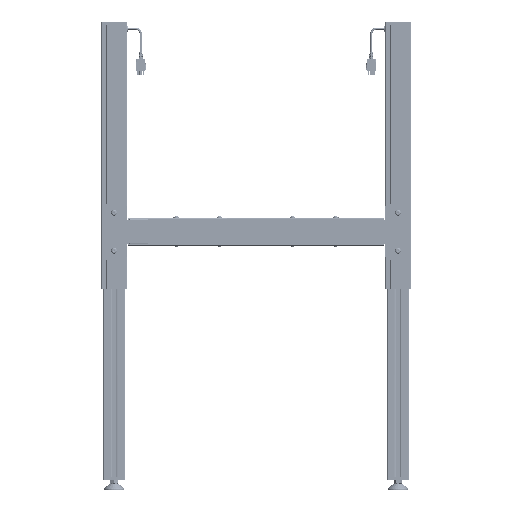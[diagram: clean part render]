
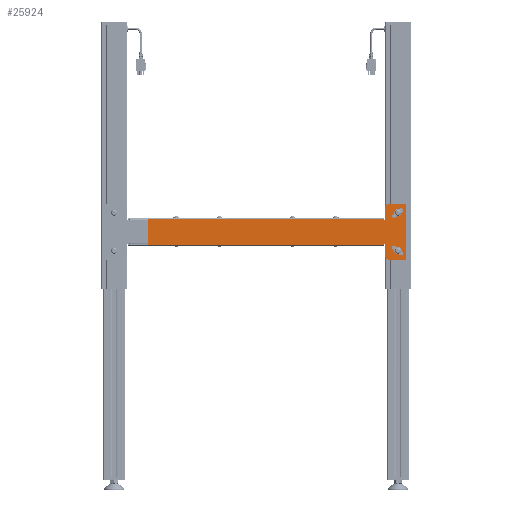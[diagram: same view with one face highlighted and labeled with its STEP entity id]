
A CAD part, front view. The second image highlights one B-rep face of the part: STEP entity #25924.
In plain terms, the highlighted planar face has unit normal (0, -1, 0) as drawn and (0, 0, -1) by its records, which use the part's own axes.
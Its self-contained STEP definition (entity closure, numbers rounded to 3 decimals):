
#1879=CIRCLE('',#33093,1.75);
#1880=CIRCLE('',#33095,1.75);
#1882=CIRCLE('',#33098,10.);
#1884=CIRCLE('',#33101,10.);
#1886=CIRCLE('',#33105,4.75);
#1888=CIRCLE('',#33109,4.75);
#1890=CIRCLE('',#33113,4.75);
#1892=CIRCLE('',#33117,4.75);
#7152=ORIENTED_EDGE('',*,*,#12334,.F.);
#7153=ORIENTED_EDGE('',*,*,#12324,.F.);
#7154=ORIENTED_EDGE('',*,*,#12328,.F.);
#7155=ORIENTED_EDGE('',*,*,#12331,.F.);
#7156=ORIENTED_EDGE('',*,*,#12322,.F.);
#7157=ORIENTED_EDGE('',*,*,#12312,.F.);
#7158=ORIENTED_EDGE('',*,*,#12316,.F.);
#7159=ORIENTED_EDGE('',*,*,#12319,.F.);
#7160=ORIENTED_EDGE('',*,*,#12300,.F.);
#7161=ORIENTED_EDGE('',*,*,#12343,.F.);
#7162=ORIENTED_EDGE('',*,*,#12308,.T.);
#7163=ORIENTED_EDGE('',*,*,#12340,.F.);
#7164=ORIENTED_EDGE('',*,*,#12338,.F.);
#7165=ORIENTED_EDGE('',*,*,#12347,.F.);
#7166=ORIENTED_EDGE('',*,*,#12304,.T.);
#7167=ORIENTED_EDGE('',*,*,#12344,.F.);
#7168=ORIENTED_EDGE('',*,*,#12301,.F.);
#7169=ORIENTED_EDGE('',*,*,#12254,.T.);
#7170=ORIENTED_EDGE('',*,*,#12349,.F.);
#7171=ORIENTED_EDGE('',*,*,#12296,.T.);
#12254=EDGE_CURVE('',#15254,#15253,#17624,.T.);
#12296=EDGE_CURVE('',#15283,#15284,#17645,.T.);
#12300=EDGE_CURVE('',#15286,#15284,#1879,.T.);
#12301=EDGE_CURVE('',#15254,#15287,#1880,.T.);
#12304=EDGE_CURVE('',#15289,#15290,#1882,.T.);
#12308=EDGE_CURVE('',#15293,#15294,#1884,.T.);
#12312=EDGE_CURVE('',#15297,#15298,#17652,.T.);
#12316=EDGE_CURVE('',#15301,#15297,#1886,.T.);
#12319=EDGE_CURVE('',#15303,#15301,#17657,.T.);
#12322=EDGE_CURVE('',#15298,#15303,#1888,.T.);
#12324=EDGE_CURVE('',#15305,#15306,#17660,.T.);
#12328=EDGE_CURVE('',#15309,#15305,#1890,.T.);
#12331=EDGE_CURVE('',#15311,#15309,#17665,.T.);
#12334=EDGE_CURVE('',#15306,#15311,#1892,.T.);
#12338=EDGE_CURVE('',#15315,#15316,#17670,.T.);
#12340=EDGE_CURVE('',#15316,#15294,#17672,.T.);
#12343=EDGE_CURVE('',#15293,#15286,#17675,.T.);
#12344=EDGE_CURVE('',#15287,#15290,#17676,.T.);
#12347=EDGE_CURVE('',#15289,#15315,#17679,.T.);
#12349=EDGE_CURVE('',#15283,#15253,#17681,.T.);
#15253=VERTEX_POINT('',#47992);
#15254=VERTEX_POINT('',#47994);
#15283=VERTEX_POINT('',#48123);
#15284=VERTEX_POINT('',#48129);
#15286=VERTEX_POINT('',#48167);
#15287=VERTEX_POINT('',#48171);
#15289=VERTEX_POINT('',#48177);
#15290=VERTEX_POINT('',#48178);
#15293=VERTEX_POINT('',#48186);
#15294=VERTEX_POINT('',#48187);
#15297=VERTEX_POINT('',#48195);
#15298=VERTEX_POINT('',#48196);
#15301=VERTEX_POINT('',#48204);
#15303=VERTEX_POINT('',#48210);
#15305=VERTEX_POINT('',#48219);
#15306=VERTEX_POINT('',#48220);
#15309=VERTEX_POINT('',#48228);
#15311=VERTEX_POINT('',#48234);
#15315=VERTEX_POINT('',#48246);
#15316=VERTEX_POINT('',#48248);
#17624=LINE('',#47993,#19803);
#17645=LINE('',#48130,#19824);
#17652=LINE('',#48194,#19831);
#17657=LINE('',#48209,#19836);
#17660=LINE('',#48218,#19839);
#17665=LINE('',#48233,#19844);
#17670=LINE('',#48247,#19849);
#17672=LINE('',#48251,#19851);
#17675=LINE('',#48255,#19854);
#17676=LINE('',#48257,#19855);
#17679=LINE('',#48261,#19858);
#17681=LINE('',#48264,#19860);
#19803=VECTOR('',#38491,1000.);
#19824=VECTOR('',#38574,1000.);
#19831=VECTOR('',#38607,1000.);
#19836=VECTOR('',#38620,1000.);
#19839=VECTOR('',#38631,1000.);
#19844=VECTOR('',#38644,1000.);
#19849=VECTOR('',#38657,1000.);
#19851=VECTOR('',#38661,1000.);
#19854=VECTOR('',#38666,1000.);
#19855=VECTOR('',#38669,1000.);
#19858=VECTOR('',#38674,1000.);
#19860=VECTOR('',#38678,1000.);
#21697=EDGE_LOOP('',(#7152,#7153,#7154,#7155));
#21698=EDGE_LOOP('',(#7156,#7157,#7158,#7159));
#21699=EDGE_LOOP('',(#7160,#7161,#7162,#7163,#7164,#7165,#7166,#7167,#7168,
#7169,#7170,#7171));
#23516=FACE_BOUND('',#21697,.T.);
#23517=FACE_BOUND('',#21698,.T.);
#23518=FACE_BOUND('',#21699,.T.);
#24791=PLANE('',#33126);
#25924=ADVANCED_FACE('',(#23516,#23517,#23518),#24791,.T.);
#33093=AXIS2_PLACEMENT_3D('',#48168,#38580,#38581);
#33095=AXIS2_PLACEMENT_3D('',#48170,#38584,#38585);
#33098=AXIS2_PLACEMENT_3D('',#48176,#38591,#38592);
#33101=AXIS2_PLACEMENT_3D('',#48185,#38599,#38600);
#33105=AXIS2_PLACEMENT_3D('',#48203,#38613,#38614);
#33109=AXIS2_PLACEMENT_3D('',#48215,#38625,#38626);
#33113=AXIS2_PLACEMENT_3D('',#48227,#38637,#38638);
#33117=AXIS2_PLACEMENT_3D('',#48239,#38649,#38650);
#33126=AXIS2_PLACEMENT_3D('',#48266,#38681,#38682);
#38491=DIRECTION('',(1.,0.,0.));
#38574=DIRECTION('',(-1.,0.,0.));
#38580=DIRECTION('',(0.,0.,-1.));
#38581=DIRECTION('',(1.,0.,0.));
#38584=DIRECTION('',(0.,0.,-1.));
#38585=DIRECTION('',(-1.,0.,0.));
#38591=DIRECTION('',(0.,0.,-1.));
#38592=DIRECTION('',(-1.,0.,0.));
#38599=DIRECTION('',(0.,0.,-1.));
#38600=DIRECTION('',(-1.,0.,0.));
#38607=DIRECTION('',(0.766,0.643,0.));
#38613=DIRECTION('',(0.,0.,-1.));
#38614=DIRECTION('',(-1.,0.,0.));
#38620=DIRECTION('',(-0.766,-0.643,0.));
#38625=DIRECTION('',(0.,0.,-1.));
#38626=DIRECTION('',(-1.,0.,0.));
#38631=DIRECTION('',(0.766,-0.643,0.));
#38637=DIRECTION('',(0.,0.,-1.));
#38638=DIRECTION('',(-1.,0.,0.));
#38644=DIRECTION('',(-0.766,0.643,0.));
#38649=DIRECTION('',(0.,0.,-1.));
#38650=DIRECTION('',(-1.,0.,0.));
#38657=DIRECTION('',(0.,-1.,0.));
#38661=DIRECTION('',(1.,0.,0.));
#38666=DIRECTION('',(0.,1.,0.));
#38669=DIRECTION('',(0.,1.,0.));
#38674=DIRECTION('',(-1.,0.,0.));
#38678=DIRECTION('',(0.,1.,0.));
#38681=DIRECTION('',(0.,0.,-1.));
#38682=DIRECTION('',(-1.,0.,0.));
#47992=CARTESIAN_POINT('',(574.,29.9,-2.5));
#47993=CARTESIAN_POINT('',(26.,29.9,-2.5));
#47994=CARTESIAN_POINT('',(27.247,29.9,-2.5));
#48123=CARTESIAN_POINT('',(574.,-29.9,-2.5));
#48129=CARTESIAN_POINT('',(27.247,-29.9,-2.5));
#48130=CARTESIAN_POINT('',(574.,-29.9,-2.5));
#48167=CARTESIAN_POINT('',(24.,-30.901,-2.5));
#48168=CARTESIAN_POINT('',(25.5,-30.,-2.5));
#48170=CARTESIAN_POINT('',(25.5,30.,-2.5));
#48171=CARTESIAN_POINT('',(24.,30.901,-2.5));
#48176=CARTESIAN_POINT('',(14.,55.,-2.5));
#48177=CARTESIAN_POINT('',(14.,65.,-2.5));
#48178=CARTESIAN_POINT('',(24.,55.,-2.5));
#48185=CARTESIAN_POINT('',(14.,-55.,-2.5));
#48186=CARTESIAN_POINT('',(24.,-55.,-2.5));
#48187=CARTESIAN_POINT('',(14.,-65.,-2.5));
#48194=CARTESIAN_POINT('',(16.196,-19.301,-2.5));
#48195=CARTESIAN_POINT('',(-16.053,-46.361,-2.5));
#48196=CARTESIAN_POINT('',(-0.349,-33.184,-2.5));
#48203=CARTESIAN_POINT('',(-13.,-50.,-2.5));
#48204=CARTESIAN_POINT('',(-9.947,-53.639,-2.5));
#48209=CARTESIAN_POINT('',(22.302,-26.579,-2.5));
#48210=CARTESIAN_POINT('',(5.757,-40.462,-2.5));
#48215=CARTESIAN_POINT('',(2.704,-36.823,-2.5));
#48218=CARTESIAN_POINT('',(22.302,26.579,-2.5));
#48219=CARTESIAN_POINT('',(-9.947,53.639,-2.5));
#48220=CARTESIAN_POINT('',(5.757,40.462,-2.5));
#48227=CARTESIAN_POINT('',(-13.,50.,-2.5));
#48228=CARTESIAN_POINT('',(-16.053,46.361,-2.5));
#48233=CARTESIAN_POINT('',(16.196,19.301,-2.5));
#48234=CARTESIAN_POINT('',(-0.349,33.184,-2.5));
#48239=CARTESIAN_POINT('',(2.704,36.823,-2.5));
#48246=CARTESIAN_POINT('',(-24.,65.,-2.5));
#48247=CARTESIAN_POINT('',(-24.,65.,-2.5));
#48248=CARTESIAN_POINT('',(-24.,-65.,-2.5));
#48251=CARTESIAN_POINT('',(-24.,-65.,-2.5));
#48255=CARTESIAN_POINT('',(24.,65.,-2.5));
#48257=CARTESIAN_POINT('',(24.,65.,-2.5));
#48261=CARTESIAN_POINT('',(-24.,65.,-2.5));
#48264=CARTESIAN_POINT('',(574.,30.,-2.5));
#48266=CARTESIAN_POINT('',(0.,0.,-2.5));
